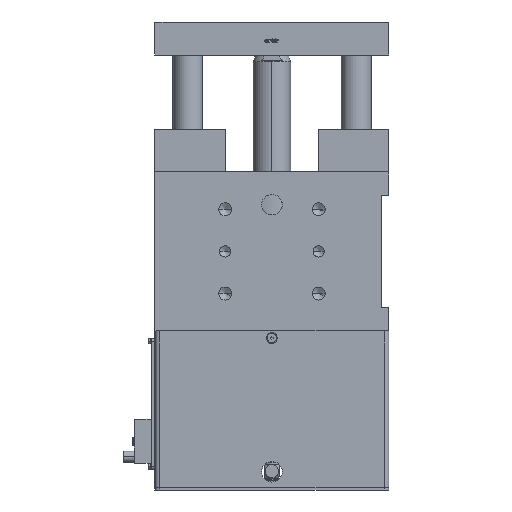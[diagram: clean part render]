
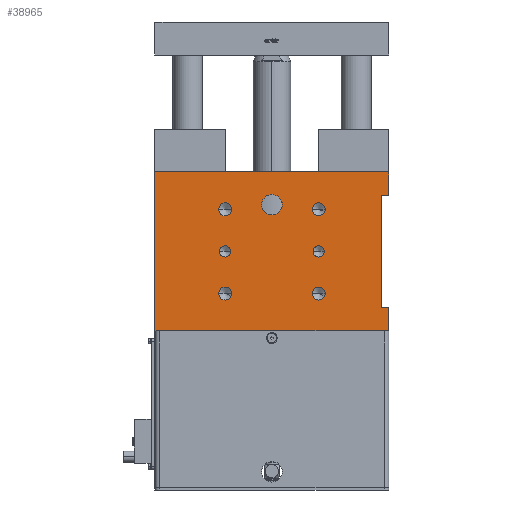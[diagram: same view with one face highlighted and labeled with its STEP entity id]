
A CAD part, front view. The second image highlights one B-rep face of the part: STEP entity #38965.
In plain terms, the highlighted planar face has unit normal (0, -1, 0).
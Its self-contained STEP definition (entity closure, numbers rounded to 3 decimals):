
#4378=AXIS2_PLACEMENT_3D('Circle Axis2P3D',#4376,#4377,$) ;
#4426=AXIS2_PLACEMENT_3D('Circle Axis2P3D',#4424,#4425,$) ;
#4449=AXIS2_PLACEMENT_3D('Circle Axis2P3D',#4447,#4448,$) ;
#4497=AXIS2_PLACEMENT_3D('Circle Axis2P3D',#4495,#4496,$) ;
#4520=AXIS2_PLACEMENT_3D('Circle Axis2P3D',#4518,#4519,$) ;
#4561=AXIS2_PLACEMENT_3D('Circle Axis2P3D',#4559,#4560,$) ;
#4584=AXIS2_PLACEMENT_3D('Circle Axis2P3D',#4582,#4583,$) ;
#4625=AXIS2_PLACEMENT_3D('Circle Axis2P3D',#4623,#4624,$) ;
#4761=AXIS2_PLACEMENT_3D('Circle Axis2P3D',#4759,#4760,$) ;
#4802=AXIS2_PLACEMENT_3D('Circle Axis2P3D',#4800,#4801,$) ;
#4856=AXIS2_PLACEMENT_3D('Circle Axis2P3D',#4854,#4855,$) ;
#4900=AXIS2_PLACEMENT_3D('Circle Axis2P3D',#4898,#4899,$) ;
#4979=AXIS2_PLACEMENT_3D('Circle Axis2P3D',#4977,#4978,$) ;
#5020=AXIS2_PLACEMENT_3D('Circle Axis2P3D',#5018,#5019,$) ;
#38888=AXIS2_PLACEMENT_3D('Plane Axis2P3D',#38885,#38886,#38887) ;
#2080=CARTESIAN_POINT('Line Origine',(0.,-62.5,0.)) ;
#2084=CARTESIAN_POINT('Vertex',(125.,-62.5,0.)) ;
#2086=CARTESIAN_POINT('Vertex',(-125.,-62.5,0.)) ;
#2794=CARTESIAN_POINT('Vertex',(125.,-62.5,-25.)) ;
#2804=CARTESIAN_POINT('Line Origine',(125.,-62.5,-12.5)) ;
#4007=CARTESIAN_POINT('Line Origine',(121.,-62.5,-25.)) ;
#4011=CARTESIAN_POINT('Vertex',(117.,-62.5,-25.)) ;
#4110=CARTESIAN_POINT('Line Origine',(121.,-62.5,-145.)) ;
#4114=CARTESIAN_POINT('Vertex',(125.,-62.5,-145.)) ;
#4116=CARTESIAN_POINT('Vertex',(117.,-62.5,-145.)) ;
#4150=CARTESIAN_POINT('Line Origine',(117.,-62.5,-85.)) ;
#4376=CARTESIAN_POINT('Axis2P3D Location',(50.,-62.5,-40.)) ;
#4380=CARTESIAN_POINT('Vertex',(56.918,-62.5,-40.)) ;
#4382=CARTESIAN_POINT('Vertex',(43.083,-62.5,-40.)) ;
#4424=CARTESIAN_POINT('Axis2P3D Location',(50.,-62.5,-40.)) ;
#4447=CARTESIAN_POINT('Axis2P3D Location',(50.,-62.5,-85.)) ;
#4451=CARTESIAN_POINT('Vertex',(56.,-62.5,-85.)) ;
#4453=CARTESIAN_POINT('Vertex',(44.,-62.5,-85.)) ;
#4495=CARTESIAN_POINT('Axis2P3D Location',(50.,-62.5,-85.)) ;
#4518=CARTESIAN_POINT('Axis2P3D Location',(50.,-62.5,-130.)) ;
#4522=CARTESIAN_POINT('Vertex',(56.918,-62.5,-130.)) ;
#4524=CARTESIAN_POINT('Vertex',(43.083,-62.5,-130.)) ;
#4559=CARTESIAN_POINT('Axis2P3D Location',(50.,-62.5,-130.)) ;
#4582=CARTESIAN_POINT('Axis2P3D Location',(-50.,-62.5,-40.)) ;
#4586=CARTESIAN_POINT('Vertex',(-43.083,-62.5,-40.)) ;
#4588=CARTESIAN_POINT('Vertex',(-56.918,-62.5,-40.)) ;
#4623=CARTESIAN_POINT('Axis2P3D Location',(-50.,-62.5,-40.)) ;
#4759=CARTESIAN_POINT('Axis2P3D Location',(-50.,-62.5,-85.)) ;
#4763=CARTESIAN_POINT('Vertex',(-44.,-62.5,-85.)) ;
#4765=CARTESIAN_POINT('Vertex',(-56.,-62.5,-85.)) ;
#4800=CARTESIAN_POINT('Axis2P3D Location',(-50.,-62.5,-85.)) ;
#4851=CARTESIAN_POINT('Vertex',(-11.,-62.5,-35.)) ;
#4854=CARTESIAN_POINT('Axis2P3D Location',(0.,-62.5,-35.)) ;
#4858=CARTESIAN_POINT('Vertex',(11.,-62.5,-35.)) ;
#4898=CARTESIAN_POINT('Axis2P3D Location',(0.,-62.5,-35.)) ;
#4977=CARTESIAN_POINT('Axis2P3D Location',(-50.,-62.5,-130.)) ;
#4981=CARTESIAN_POINT('Vertex',(-43.083,-62.5,-130.)) ;
#4983=CARTESIAN_POINT('Vertex',(-56.918,-62.5,-130.)) ;
#5018=CARTESIAN_POINT('Axis2P3D Location',(-50.,-62.5,-130.)) ;
#38409=CARTESIAN_POINT('Line Origine',(125.,-62.5,-157.5)) ;
#38413=CARTESIAN_POINT('Vertex',(125.,-62.5,-170.)) ;
#38644=CARTESIAN_POINT('Vertex',(-125.,-62.5,-170.)) ;
#38647=CARTESIAN_POINT('Line Origine',(-125.,-62.5,-85.)) ;
#38885=CARTESIAN_POINT('Axis2P3D Location',(125.,-62.5,0.)) ;
#38890=CARTESIAN_POINT('Line Origine',(120.015,-62.5,-170.)) ;
#38894=CARTESIAN_POINT('Vertex',(120.,-62.5,-170.)) ;
#38896=CARTESIAN_POINT('Vertex',(120.03,-62.5,-170.)) ;
#38899=CARTESIAN_POINT('Line Origine',(122.515,-62.5,-170.)) ;
#38904=CARTESIAN_POINT('Line Origine',(-122.515,-62.5,-170.)) ;
#38908=CARTESIAN_POINT('Vertex',(-120.03,-62.5,-170.)) ;
#38911=CARTESIAN_POINT('Line Origine',(-120.015,-62.5,-170.)) ;
#38915=CARTESIAN_POINT('Vertex',(-120.,-62.5,-170.)) ;
#38918=CARTESIAN_POINT('Line Origine',(0.,-62.5,-170.)) ;
#2081=DIRECTION('Vector Direction',(-1.,0.,0.)) ;
#2805=DIRECTION('Vector Direction',(0.,0.,-1.)) ;
#4008=DIRECTION('Vector Direction',(1.,0.,0.)) ;
#4111=DIRECTION('Vector Direction',(-1.,0.,0.)) ;
#4151=DIRECTION('Vector Direction',(0.,0.,1.)) ;
#4377=DIRECTION('Axis2P3D Direction',(0.,1.,0.)) ;
#4425=DIRECTION('Axis2P3D Direction',(0.,1.,0.)) ;
#4448=DIRECTION('Axis2P3D Direction',(0.,1.,0.)) ;
#4496=DIRECTION('Axis2P3D Direction',(0.,1.,0.)) ;
#4519=DIRECTION('Axis2P3D Direction',(0.,1.,0.)) ;
#4560=DIRECTION('Axis2P3D Direction',(0.,1.,0.)) ;
#4583=DIRECTION('Axis2P3D Direction',(0.,1.,0.)) ;
#4624=DIRECTION('Axis2P3D Direction',(0.,1.,0.)) ;
#4760=DIRECTION('Axis2P3D Direction',(0.,1.,0.)) ;
#4801=DIRECTION('Axis2P3D Direction',(0.,1.,0.)) ;
#4855=DIRECTION('Axis2P3D Direction',(0.,-1.,0.)) ;
#4899=DIRECTION('Axis2P3D Direction',(0.,-1.,0.)) ;
#4978=DIRECTION('Axis2P3D Direction',(0.,1.,0.)) ;
#5019=DIRECTION('Axis2P3D Direction',(0.,1.,0.)) ;
#38410=DIRECTION('Vector Direction',(0.,0.,-1.)) ;
#38648=DIRECTION('Vector Direction',(0.,0.,-1.)) ;
#38886=DIRECTION('Axis2P3D Direction',(-0.,-1.,-0.)) ;
#38887=DIRECTION('Axis2P3D XDirection',(-1.,0.,0.)) ;
#38891=DIRECTION('Vector Direction',(1.,0.,0.)) ;
#38900=DIRECTION('Vector Direction',(1.,0.,0.)) ;
#38905=DIRECTION('Vector Direction',(1.,0.,0.)) ;
#38912=DIRECTION('Vector Direction',(1.,0.,0.)) ;
#38919=DIRECTION('Vector Direction',(1.,0.,0.)) ;
#2082=VECTOR('Line Direction',#2081,1.) ;
#2806=VECTOR('Line Direction',#2805,1.) ;
#4009=VECTOR('Line Direction',#4008,1.) ;
#4112=VECTOR('Line Direction',#4111,1.) ;
#4152=VECTOR('Line Direction',#4151,1.) ;
#38411=VECTOR('Line Direction',#38410,1.) ;
#38649=VECTOR('Line Direction',#38648,1.) ;
#38892=VECTOR('Line Direction',#38891,1.) ;
#38901=VECTOR('Line Direction',#38900,1.) ;
#38906=VECTOR('Line Direction',#38905,1.) ;
#38913=VECTOR('Line Direction',#38912,1.) ;
#38920=VECTOR('Line Direction',#38919,1.) ;
#38924=ORIENTED_EDGE('',*,*,#38898,.T.) ;
#38925=ORIENTED_EDGE('',*,*,#38903,.T.) ;
#38926=ORIENTED_EDGE('',*,*,#38415,.F.) ;
#38927=ORIENTED_EDGE('',*,*,#4118,.T.) ;
#38928=ORIENTED_EDGE('',*,*,#4154,.T.) ;
#38929=ORIENTED_EDGE('',*,*,#4013,.T.) ;
#38930=ORIENTED_EDGE('',*,*,#2808,.F.) ;
#38931=ORIENTED_EDGE('',*,*,#2088,.T.) ;
#38932=ORIENTED_EDGE('',*,*,#38651,.T.) ;
#38933=ORIENTED_EDGE('',*,*,#38910,.T.) ;
#38934=ORIENTED_EDGE('',*,*,#38917,.T.) ;
#38935=ORIENTED_EDGE('',*,*,#38922,.T.) ;
#38938=ORIENTED_EDGE('',*,*,#4384,.T.) ;
#38939=ORIENTED_EDGE('',*,*,#4428,.T.) ;
#38942=ORIENTED_EDGE('',*,*,#4455,.T.) ;
#38943=ORIENTED_EDGE('',*,*,#4499,.T.) ;
#38946=ORIENTED_EDGE('',*,*,#4526,.T.) ;
#38947=ORIENTED_EDGE('',*,*,#4563,.T.) ;
#38950=ORIENTED_EDGE('',*,*,#4590,.T.) ;
#38951=ORIENTED_EDGE('',*,*,#4627,.T.) ;
#38954=ORIENTED_EDGE('',*,*,#4767,.T.) ;
#38955=ORIENTED_EDGE('',*,*,#4804,.T.) ;
#38958=ORIENTED_EDGE('',*,*,#4860,.T.) ;
#38959=ORIENTED_EDGE('',*,*,#4902,.T.) ;
#38962=ORIENTED_EDGE('',*,*,#4985,.T.) ;
#38963=ORIENTED_EDGE('',*,*,#5022,.T.) ;
#38940=FACE_BOUND('',#38937,.T.) ;
#38944=FACE_BOUND('',#38941,.T.) ;
#38948=FACE_BOUND('',#38945,.T.) ;
#38952=FACE_BOUND('',#38949,.T.) ;
#38956=FACE_BOUND('',#38953,.T.) ;
#38960=FACE_BOUND('',#38957,.T.) ;
#38964=FACE_BOUND('',#38961,.T.) ;
#38965=ADVANCED_FACE('GRUNDKOERPER',(#38936,#38940,#38944,#38948,#38952,#38956,#38960,#38964),#38889,.T.) ;
#4379=CIRCLE('generated circle',#4378,6.918) ;
#4427=CIRCLE('generated circle',#4426,6.918) ;
#4450=CIRCLE('generated circle',#4449,6.) ;
#4498=CIRCLE('generated circle',#4497,6.) ;
#4521=CIRCLE('generated circle',#4520,6.918) ;
#4562=CIRCLE('generated circle',#4561,6.918) ;
#4585=CIRCLE('generated circle',#4584,6.918) ;
#4626=CIRCLE('generated circle',#4625,6.918) ;
#4762=CIRCLE('generated circle',#4761,6.) ;
#4803=CIRCLE('generated circle',#4802,6.) ;
#4857=CIRCLE('generated circle',#4856,11.) ;
#4901=CIRCLE('generated circle',#4900,11.) ;
#4980=CIRCLE('generated circle',#4979,6.918) ;
#5021=CIRCLE('generated circle',#5020,6.918) ;
#2088=EDGE_CURVE('',#2085,#2087,#2083,.T.) ;
#2808=EDGE_CURVE('',#2085,#2795,#2807,.T.) ;
#4013=EDGE_CURVE('',#4012,#2795,#4010,.T.) ;
#4118=EDGE_CURVE('',#4115,#4117,#4113,.T.) ;
#4154=EDGE_CURVE('',#4117,#4012,#4153,.T.) ;
#4384=EDGE_CURVE('',#4381,#4383,#4379,.T.) ;
#4428=EDGE_CURVE('',#4383,#4381,#4427,.T.) ;
#4455=EDGE_CURVE('',#4452,#4454,#4450,.T.) ;
#4499=EDGE_CURVE('',#4454,#4452,#4498,.T.) ;
#4526=EDGE_CURVE('',#4523,#4525,#4521,.T.) ;
#4563=EDGE_CURVE('',#4525,#4523,#4562,.T.) ;
#4590=EDGE_CURVE('',#4587,#4589,#4585,.T.) ;
#4627=EDGE_CURVE('',#4589,#4587,#4626,.T.) ;
#4767=EDGE_CURVE('',#4764,#4766,#4762,.T.) ;
#4804=EDGE_CURVE('',#4766,#4764,#4803,.T.) ;
#4860=EDGE_CURVE('',#4859,#4852,#4857,.F.) ;
#4902=EDGE_CURVE('',#4852,#4859,#4901,.F.) ;
#4985=EDGE_CURVE('',#4982,#4984,#4980,.T.) ;
#5022=EDGE_CURVE('',#4984,#4982,#5021,.T.) ;
#38415=EDGE_CURVE('',#4115,#38414,#38412,.T.) ;
#38651=EDGE_CURVE('',#2087,#38645,#38650,.T.) ;
#38898=EDGE_CURVE('',#38895,#38897,#38893,.T.) ;
#38903=EDGE_CURVE('',#38897,#38414,#38902,.T.) ;
#38910=EDGE_CURVE('',#38645,#38909,#38907,.T.) ;
#38917=EDGE_CURVE('',#38909,#38916,#38914,.T.) ;
#38922=EDGE_CURVE('',#38916,#38895,#38921,.T.) ;
#38923=EDGE_LOOP('',(#38924,#38925,#38926,#38927,#38928,#38929,#38930,#38931,#38932,#38933,#38934,#38935)) ;
#38937=EDGE_LOOP('',(#38938,#38939)) ;
#38941=EDGE_LOOP('',(#38942,#38943)) ;
#38945=EDGE_LOOP('',(#38946,#38947)) ;
#38949=EDGE_LOOP('',(#38950,#38951)) ;
#38953=EDGE_LOOP('',(#38954,#38955)) ;
#38957=EDGE_LOOP('',(#38958,#38959)) ;
#38961=EDGE_LOOP('',(#38962,#38963)) ;
#38936=FACE_OUTER_BOUND('',#38923,.T.) ;
#2083=LINE('Line',#2080,#2082) ;
#2807=LINE('Line',#2804,#2806) ;
#4010=LINE('Line',#4007,#4009) ;
#4113=LINE('Line',#4110,#4112) ;
#4153=LINE('Line',#4150,#4152) ;
#38412=LINE('Line',#38409,#38411) ;
#38650=LINE('Line',#38647,#38649) ;
#38893=LINE('Line',#38890,#38892) ;
#38902=LINE('Line',#38899,#38901) ;
#38907=LINE('Line',#38904,#38906) ;
#38914=LINE('Line',#38911,#38913) ;
#38921=LINE('Line',#38918,#38920) ;
#38889=PLANE('',#38888) ;
#2085=VERTEX_POINT('',#2084) ;
#2087=VERTEX_POINT('',#2086) ;
#2795=VERTEX_POINT('',#2794) ;
#4012=VERTEX_POINT('',#4011) ;
#4115=VERTEX_POINT('',#4114) ;
#4117=VERTEX_POINT('',#4116) ;
#4381=VERTEX_POINT('',#4380) ;
#4383=VERTEX_POINT('',#4382) ;
#4452=VERTEX_POINT('',#4451) ;
#4454=VERTEX_POINT('',#4453) ;
#4523=VERTEX_POINT('',#4522) ;
#4525=VERTEX_POINT('',#4524) ;
#4587=VERTEX_POINT('',#4586) ;
#4589=VERTEX_POINT('',#4588) ;
#4764=VERTEX_POINT('',#4763) ;
#4766=VERTEX_POINT('',#4765) ;
#4852=VERTEX_POINT('',#4851) ;
#4859=VERTEX_POINT('',#4858) ;
#4982=VERTEX_POINT('',#4981) ;
#4984=VERTEX_POINT('',#4983) ;
#38414=VERTEX_POINT('',#38413) ;
#38645=VERTEX_POINT('',#38644) ;
#38895=VERTEX_POINT('',#38894) ;
#38897=VERTEX_POINT('',#38896) ;
#38909=VERTEX_POINT('',#38908) ;
#38916=VERTEX_POINT('',#38915) ;
